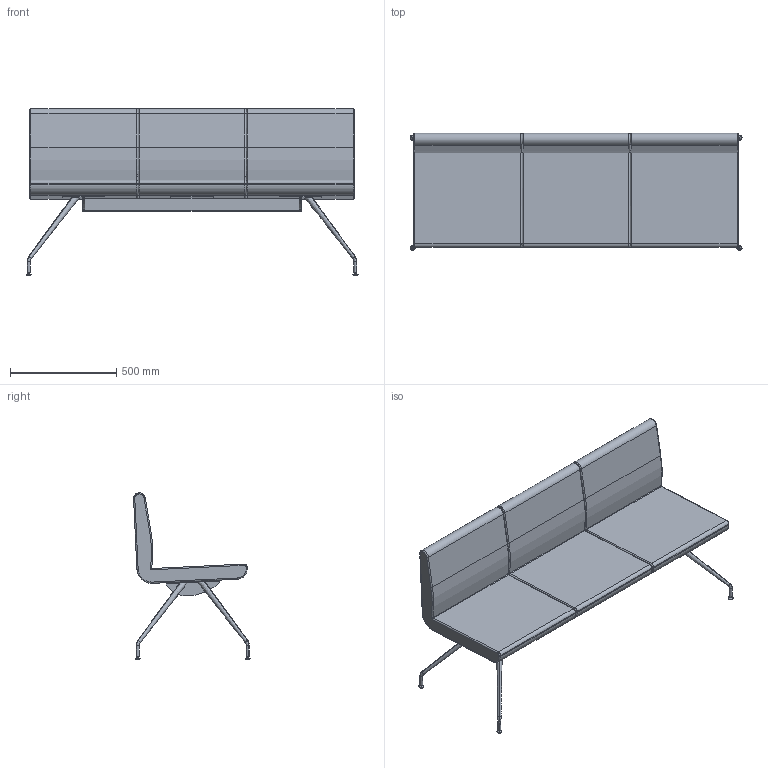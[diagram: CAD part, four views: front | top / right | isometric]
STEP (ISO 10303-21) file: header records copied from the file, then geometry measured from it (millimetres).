
FILE_DESCRIPTION(/* description */ (''),/* implementation_level */ '2;1');
FILE_NAME(/* name */ 'DELTA3~2',/* time_stamp */ '2016-06-16T16:24:25+02:00',/* author */ (''),/* organization */ (''),/* preprocessor_version */ 'ST-DEVELOPER v15',/* originating_system */ '',/* authorisation */ '');
FILE_SCHEMA (('CONFIG_CONTROL_DESIGN'));
Length unit declared in the file: millimetre
Products named in the file (1): Document
Bounding box: 1564 x 550.99 x 785.18 mm (x, y, z)
Volume: 92206578.4 mm3; surface area: 3832520.8 mm2
Topology: 8 solids, 17 shells, 227 faces, 514 edges, 314 vertices
Faces by surface type: bspline 195, plane 32
Entity records: 7693 total; most frequent: CARTESIAN_POINT 4898, ORIENTED_EDGE 982, EDGE_CURVE 511, VERTEX_POINT 308, EDGE_LOOP 231, ADVANCED_FACE 227, FACE_OUTER_BOUND 227, B_SPLINE_CURVE_WITH_KNOTS 66
